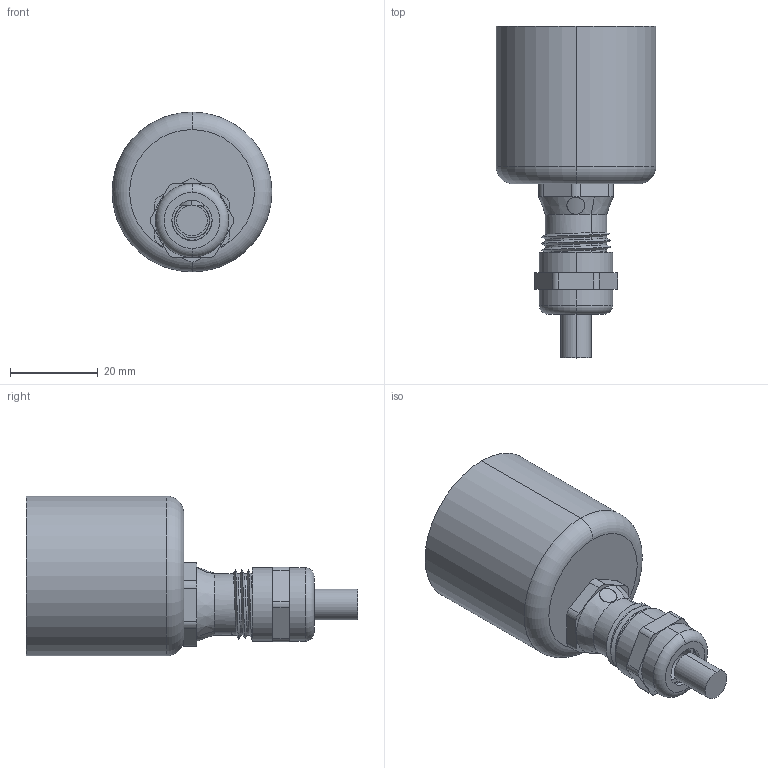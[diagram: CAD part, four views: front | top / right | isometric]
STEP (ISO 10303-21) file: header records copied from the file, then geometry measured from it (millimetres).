
FILE_DESCRIPTION (( 'STEP AP203' ), '1' );
FILE_NAME ('Drawing-MC-3-CA-360-SPS-12BNNN-N-CAW-L.STEP', '2013-05-22T11:12:53', ( '' ), ( '' ), 'SwSTEP 2.0', 'SolidWorks 2006104', '' );
FILE_SCHEMA (( 'CONFIG_CONTROL_DESIGN' ));
Length unit declared in the file: millimetre
Products named in the file (1): Drawing-MC-3-CA-360-SPS-12BNNN-N-CAW-L
Bounding box: 36.5 x 75.75 x 36.5 mm (x, y, z)
Volume: 8514.8 mm3; surface area: 18002.9 mm2
Topology: 6 solids, 6 shells, 340 faces, 912 edges, 594 vertices
Faces by surface type: cylinder 150, plane 139, torus 33, cone 8, bspline 8, sphere 2
Entity records: 13076 total; most frequent: CARTESIAN_POINT 4617, ORIENTED_EDGE 1816, DIRECTION 1743, EDGE_CURVE 908, AXIS2_PLACEMENT_3D 700, VERTEX_POINT 592, CIRCLE 367, EDGE_LOOP 360
